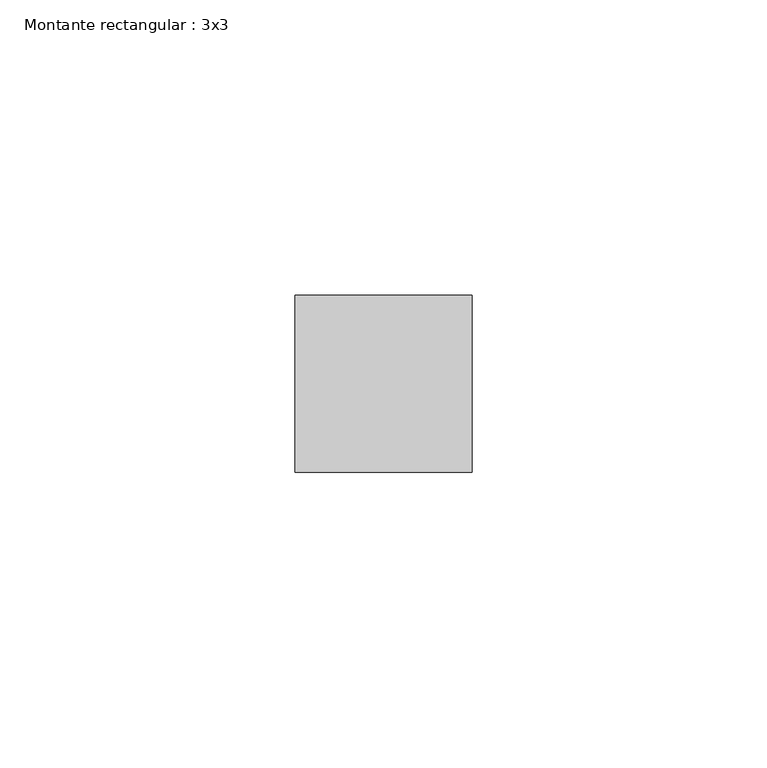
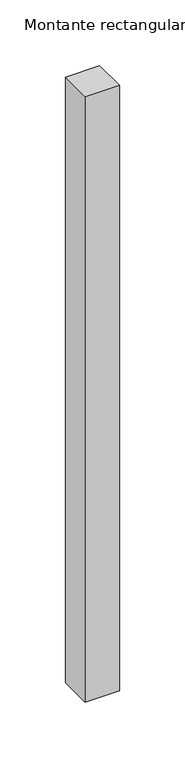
"""IFC4 building model written with IfcOpenShell, lengths in millimetres: member geometry, Montante rectangular : 3x3."""

from ifc_helpers import new_model, si_unit, frame, origin, place, context, project, spatial, polyline, outline, extrude, source, transform, mapped, element, save


def montante_rectangular_3x3_da87f401(model_context):
    return source(origin(), model_context, "Body", "SweptSolid", [
        extrude(outline(polyline([(15.0, 15.0), (15.0, -15.0), (-15.0, -15.0), (-15.0, 15.0), (15.0, 15.0)])), frame((0.0, 0.0, -562.242349), z_axis=(0.0, 0.0, 1.0), x_axis=(1.0, 0.0, 0.0)), (0.0, 0.0, 1.0), 562.242349),
    ])


if __name__ == "__main__":
    model = new_model("IFC4")
    model_context = context("Model", 3, world=origin())
    ifc_project = project(units=[si_unit("LENGTHUNIT", "METRE", prefix="MILLI")], contexts=[model_context])
    site = spatial("IfcSite", under=ifc_project)
    building = spatial("IfcBuilding", under=site)
    placement = place(None, origin())
    montante_rectangular_3x3_shape = montante_rectangular_3x3_da87f401(model_context)
    element("IfcMember", 1, ObjectType="Montante rectangular : 3x3", at=placement, inside=building, context=model_context, shape_type="MappedRepresentation", body=[
        mapped(montante_rectangular_3x3_shape, transform((0.0, 0.0, 0.0), x_axis=(1.0, 0.0, 0.0), y_axis=(0.0, 1.0, 0.0), z_axis=(0.0, 0.0, 1.0))),
    ])
    save(model, "model.ifc")
